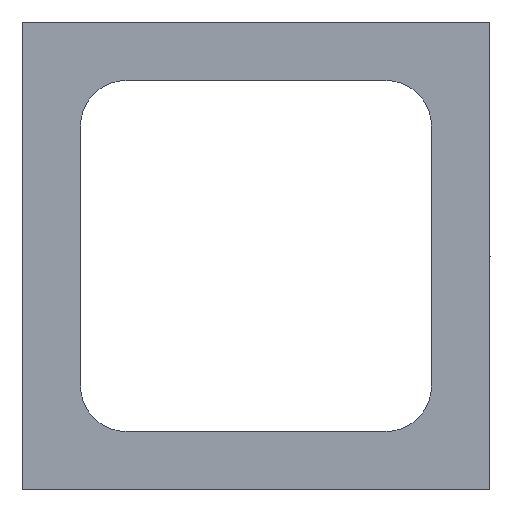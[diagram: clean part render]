
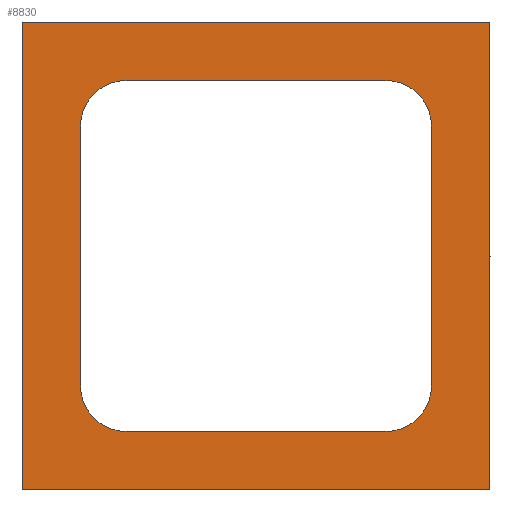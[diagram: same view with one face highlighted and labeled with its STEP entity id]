
A CAD part, front view. The second image highlights one B-rep face of the part: STEP entity #8830.
In plain terms, the highlighted planar face has unit normal (0, -1, 0).
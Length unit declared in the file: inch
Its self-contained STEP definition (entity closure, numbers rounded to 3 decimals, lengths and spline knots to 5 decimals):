
#764=FACE_BOUND('',#2292,.T.);
#774=PLANE('',#9983);
#1160=FACE_OUTER_BOUND('',#2291,.T.);
#2291=EDGE_LOOP('',(#8057,#8058,#8059,#8060));
#2292=EDGE_LOOP('',(#8061,#8062,#8063,#8064,#8065,#8066,#8067,#8068));
#2471=LINE('',#13736,#2871);
#2475=LINE('',#13934,#2875);
#2479=LINE('',#13956,#2879);
#2484=LINE('',#14154,#2884);
#2681=LINE('',#14952,#3081);
#2685=LINE('',#14960,#3085);
#2688=LINE('',#14966,#3088);
#2691=LINE('',#14971,#3091);
#2871=VECTOR('',#11231,0.3937);
#2875=VECTOR('',#11429,0.3937);
#2879=VECTOR('',#11451,0.3937);
#2884=VECTOR('',#11650,0.3937);
#3081=VECTOR('',#12643,0.3937);
#3085=VECTOR('',#12649,0.3937);
#3088=VECTOR('',#12654,0.3937);
#3091=VECTOR('',#12659,0.3937);
#3445=CIRCLE('',#9375,0.0975);
#3540=CIRCLE('',#9472,0.0975);
#3547=CIRCLE('',#9481,0.0975);
#3642=CIRCLE('',#9578,0.0975);
#4197=VERTEX_POINT('',#13726);
#4198=VERTEX_POINT('',#13727);
#4201=VERTEX_POINT('',#13735);
#4296=VERTEX_POINT('',#13927);
#4298=VERTEX_POINT('',#13933);
#4305=VERTEX_POINT('',#13949);
#4307=VERTEX_POINT('',#13955);
#4402=VERTEX_POINT('',#14147);
#4605=VERTEX_POINT('',#14950);
#4606=VERTEX_POINT('',#14951);
#4609=VERTEX_POINT('',#14959);
#4611=VERTEX_POINT('',#14965);
#5141=EDGE_CURVE('',#4197,#4198,#3445,.T.);
#5145=EDGE_CURVE('',#4198,#4201,#2471,.T.);
#5241=EDGE_CURVE('',#4201,#4296,#3540,.T.);
#5244=EDGE_CURVE('',#4296,#4298,#2475,.T.);
#5252=EDGE_CURVE('',#4298,#4305,#3547,.T.);
#5255=EDGE_CURVE('',#4305,#4307,#2479,.T.);
#5351=EDGE_CURVE('',#4307,#4402,#3642,.T.);
#5355=EDGE_CURVE('',#4402,#4197,#2484,.T.);
#5753=EDGE_CURVE('',#4605,#4606,#2681,.T.);
#5757=EDGE_CURVE('',#4609,#4605,#2685,.T.);
#5760=EDGE_CURVE('',#4611,#4609,#2688,.T.);
#5763=EDGE_CURVE('',#4606,#4611,#2691,.T.);
#8057=ORIENTED_EDGE('',*,*,#5763,.F.);
#8058=ORIENTED_EDGE('',*,*,#5753,.F.);
#8059=ORIENTED_EDGE('',*,*,#5757,.F.);
#8060=ORIENTED_EDGE('',*,*,#5760,.F.);
#8061=ORIENTED_EDGE('',*,*,#5141,.F.);
#8062=ORIENTED_EDGE('',*,*,#5355,.F.);
#8063=ORIENTED_EDGE('',*,*,#5351,.F.);
#8064=ORIENTED_EDGE('',*,*,#5255,.F.);
#8065=ORIENTED_EDGE('',*,*,#5252,.F.);
#8066=ORIENTED_EDGE('',*,*,#5244,.F.);
#8067=ORIENTED_EDGE('',*,*,#5241,.F.);
#8068=ORIENTED_EDGE('',*,*,#5145,.F.);
#8830=ADVANCED_FACE('',(#1160,#764),#774,.F.);
#9375=AXIS2_PLACEMENT_3D('',#13728,#11223,#11224);
#9472=AXIS2_PLACEMENT_3D('',#13928,#11422,#11423);
#9481=AXIS2_PLACEMENT_3D('',#13950,#11444,#11445);
#9578=AXIS2_PLACEMENT_3D('',#14148,#11642,#11643);
#9983=AXIS2_PLACEMENT_3D('',#14974,#12663,#12664);
#11223=DIRECTION('center_axis',(0.,-1.,0.));
#11224=DIRECTION('ref_axis',(-0.707,0.,-0.707));
#11231=DIRECTION('',(1.,0.,0.));
#11422=DIRECTION('center_axis',(0.,-1.,0.));
#11423=DIRECTION('ref_axis',(0.707,0.,-0.707));
#11429=DIRECTION('',(0.,0.,1.));
#11444=DIRECTION('center_axis',(0.,-1.,0.));
#11445=DIRECTION('ref_axis',(0.707,0.,0.707));
#11451=DIRECTION('',(-1.,0.,0.));
#11642=DIRECTION('center_axis',(0.,-1.,0.));
#11643=DIRECTION('ref_axis',(-0.707,0.,0.707));
#11650=DIRECTION('',(0.,0.,-1.));
#12643=DIRECTION('',(1.,0.,0.));
#12649=DIRECTION('',(0.,0.,1.));
#12654=DIRECTION('',(-1.,0.,0.));
#12659=DIRECTION('',(0.,0.,-1.));
#12663=DIRECTION('center_axis',(0.,1.,0.));
#12664=DIRECTION('ref_axis',(1.,0.,0.));
#13726=CARTESIAN_POINT('',(-0.375,0.,-0.2775));
#13727=CARTESIAN_POINT('',(-0.2775,0.,-0.375));
#13728=CARTESIAN_POINT('Origin',(-0.2775,0.,-0.2775));
#13735=CARTESIAN_POINT('',(0.2775,0.,-0.375));
#13736=CARTESIAN_POINT('',(0.375,0.,-0.375));
#13927=CARTESIAN_POINT('',(0.375,0.,-0.2775));
#13928=CARTESIAN_POINT('Origin',(0.2775,0.,-0.2775));
#13933=CARTESIAN_POINT('',(0.375,0.,0.2775));
#13934=CARTESIAN_POINT('',(0.375,0.,0.375));
#13949=CARTESIAN_POINT('',(0.2775,0.,0.375));
#13950=CARTESIAN_POINT('Origin',(0.2775,0.,0.2775));
#13955=CARTESIAN_POINT('',(-0.2775,0.,0.375));
#13956=CARTESIAN_POINT('',(-0.375,0.,0.375));
#14147=CARTESIAN_POINT('',(-0.375,0.,0.2775));
#14148=CARTESIAN_POINT('Origin',(-0.2775,0.,0.2775));
#14154=CARTESIAN_POINT('',(-0.375,0.,-0.375));
#14950=CARTESIAN_POINT('',(-0.5,0.,0.5));
#14951=CARTESIAN_POINT('',(0.5,0.,0.5));
#14952=CARTESIAN_POINT('',(-0.5,0.,0.5));
#14959=CARTESIAN_POINT('',(-0.5,0.,-0.5));
#14960=CARTESIAN_POINT('',(-0.5,0.,-0.5));
#14965=CARTESIAN_POINT('',(0.5,0.,-0.5));
#14966=CARTESIAN_POINT('',(0.5,0.,-0.5));
#14971=CARTESIAN_POINT('',(0.5,0.,0.5));
#14974=CARTESIAN_POINT('Origin',(0.,0.,0.));
